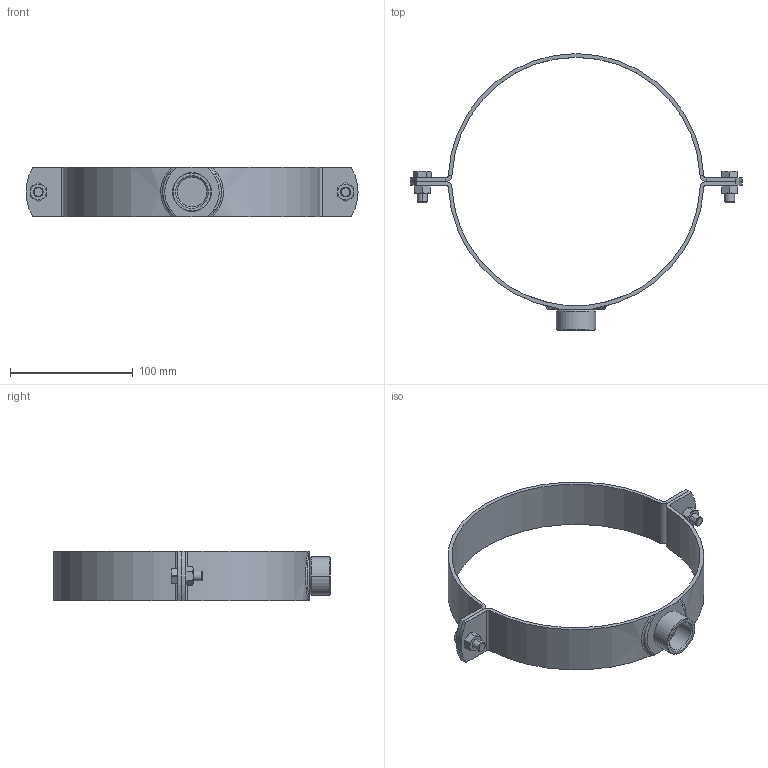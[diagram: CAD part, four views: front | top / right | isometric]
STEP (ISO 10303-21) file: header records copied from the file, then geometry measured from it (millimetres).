
FILE_DESCRIPTION (( 'STEP AP203' ), '1' );
FILE_NAME ('51.841.STEP', '2019-11-21T16:17:20', ( '' ), ( '' ), 'SwSTEP 2.0', 'SolidWorks 2019', '' );
FILE_SCHEMA (( 'CONFIG_CONTROL_DESIGN' ));
Length unit declared in the file: millimetre
Products named in the file (7): 1000003486; 51.841; 1000003377_12 - Gr. 203-206 - H-17110.012; 1000003263_E-10254.002-Inox V4A (1.4404); 1000003381_12 - Gr. 203-206 - H-17111.612; 1000003366_12 - Gr. 203-206 - H-17109.012; 1000003484
Assembly tree (8 placements, depth 3):
  51.841
    1000003381_12 - Gr. 203-206 - H-17111.612
      1000003377_12 - Gr. 203-206 - H-17110.012
      1000003263_E-10254.002-Inox V4A (1.4404)
    1000003366_12 - Gr. 203-206 - H-17109.012
    1000003484  x2
    1000003486  x2
Bounding box: 270 x 225 x 40 mm (x, y, z)
Volume: 100699.2 mm3; surface area: 72129.1 mm2
Topology: 7 solids, 7 shells, 204 faces, 468 edges, 280 vertices
Faces by surface type: plane 70, cone 62, cylinder 56, bspline 14, torus 2
Entity records: 5950 total; most frequent: CARTESIAN_POINT 1999, DIRECTION 669, ORIENTED_EDGE 662, EDGE_CURVE 331, AXIS2_PLACEMENT_3D 276, VERTEX_POINT 200, EDGE_LOOP 155, ADVANCED_FACE 142
